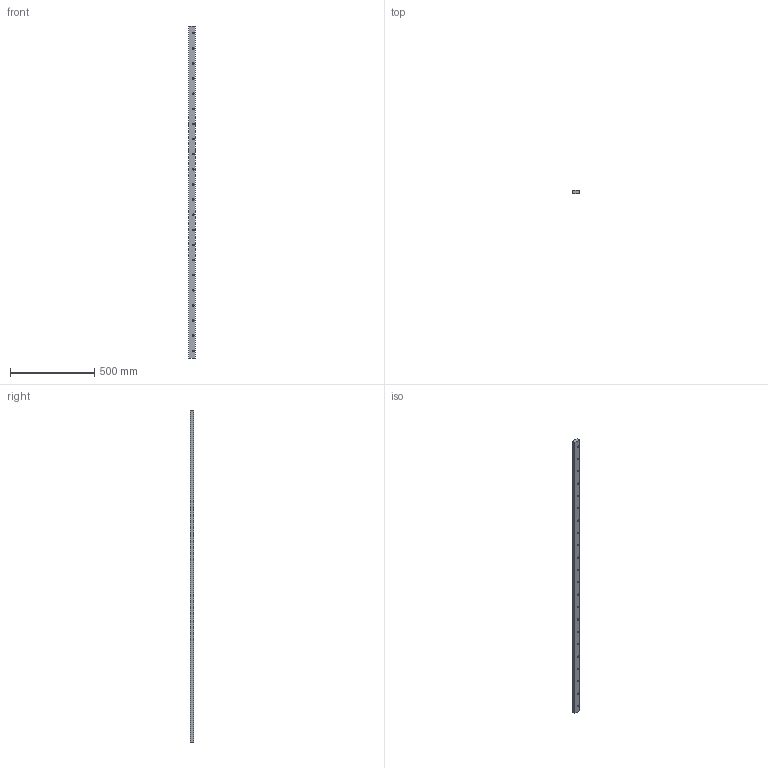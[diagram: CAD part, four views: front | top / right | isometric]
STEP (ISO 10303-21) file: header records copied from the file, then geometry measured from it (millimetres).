
FILE_DESCRIPTION(('STEP AP203'),'1');
FILE_NAME('track_ft4020l1976p1.stp','2022-07-04T01:40:15',('TraceParts'),('TraceParts S.A.'),'Spatial InterOp 3D',' ',' ');
FILE_SCHEMA(('CONFIG_CONTROL_DESIGN'));
Length unit declared in the file: millimetre
Products named in the file (1): 1
Bounding box: 40 x 20 x 1976 mm (x, y, z)
Volume: 1531480.6 mm3; surface area: 248899.6 mm2
Topology: 1 solids, 1 shells, 120 faces, 288 edges, 192 vertices
Faces by surface type: cylinder 88, plane 32
Entity records: 3720 total; most frequent: DIRECTION 706, CARTESIAN_POINT 601, ORIENTED_EDGE 576, AXIS2_PLACEMENT_3D 297, EDGE_CURVE 288, VERTEX_POINT 192, EDGE_LOOP 186, CIRCLE 176
